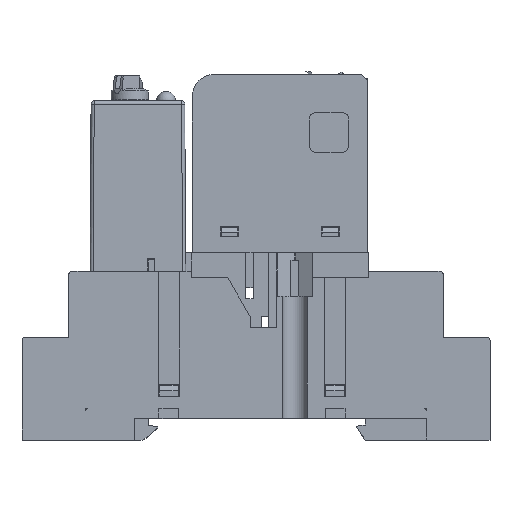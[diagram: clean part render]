
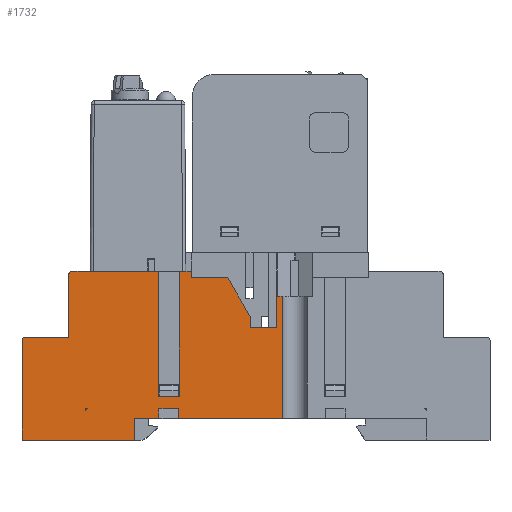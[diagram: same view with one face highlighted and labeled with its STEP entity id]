
A CAD part, top view. The second image highlights one B-rep face of the part: STEP entity #1732.
In plain terms, the highlighted planar face has unit normal (0, 0, 1).
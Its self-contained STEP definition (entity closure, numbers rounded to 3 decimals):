
#1732=ADVANCED_FACE('',(#28784,#28786),#28788,.T.);
#28784=FACE_BOUND('',#28785,.T.);
#28785=EDGE_LOOP('',(#53691,#53692,#53693,#53694,#53695,#53696,#53697,#53698,#53699,
#53700,#53701,#53702,#53703,#53704,#53705,#53706,#53707,#53708,#53709,#53710,#53711,
#53712,#53713,#53714,#53715));
#28786=FACE_BOUND('',#28787,.T.);
#28787=EDGE_LOOP('',(#53716,#53717,#53718));
#28788=PLANE('',#28789);
#28789=AXIS2_PLACEMENT_3D('',#28790,#28791,#28792);
#28790=CARTESIAN_POINT('',(-43.65,0.,15.));
#28791=DIRECTION('',(0.,0.,1.));
#28792=DIRECTION('',(1.,0.,0.));
#53691=ORIENTED_EDGE('',*,*,#70001,.T.);
#53692=ORIENTED_EDGE('',*,*,#70002,.T.);
#53693=ORIENTED_EDGE('',*,*,#70003,.T.);
#53694=ORIENTED_EDGE('',*,*,#69581,.F.);
#53695=ORIENTED_EDGE('',*,*,#70000,.F.);
#53696=ORIENTED_EDGE('',*,*,#70004,.T.);
#53697=ORIENTED_EDGE('',*,*,#70005,.T.);
#53698=ORIENTED_EDGE('',*,*,#70006,.F.);
#53699=ORIENTED_EDGE('',*,*,#70007,.F.);
#53700=ORIENTED_EDGE('',*,*,#70008,.T.);
#53701=ORIENTED_EDGE('',*,*,#70009,.T.);
#53702=ORIENTED_EDGE('',*,*,#70010,.F.);
#53703=ORIENTED_EDGE('',*,*,#70011,.T.);
#53704=ORIENTED_EDGE('',*,*,#70012,.T.);
#53705=ORIENTED_EDGE('',*,*,#70013,.T.);
#53706=ORIENTED_EDGE('',*,*,#70014,.F.);
#53707=ORIENTED_EDGE('',*,*,#70015,.T.);
#53708=ORIENTED_EDGE('',*,*,#70016,.F.);
#53709=ORIENTED_EDGE('',*,*,#70017,.T.);
#53710=ORIENTED_EDGE('',*,*,#70018,.T.);
#53711=ORIENTED_EDGE('',*,*,#70019,.T.);
#53712=ORIENTED_EDGE('',*,*,#70020,.T.);
#53713=ORIENTED_EDGE('',*,*,#70021,.T.);
#53714=ORIENTED_EDGE('',*,*,#70022,.T.);
#53715=ORIENTED_EDGE('',*,*,#69585,.F.);
#53716=ORIENTED_EDGE('',*,*,#70023,.T.);
#53717=ORIENTED_EDGE('',*,*,#70024,.T.);
#53718=ORIENTED_EDGE('',*,*,#70025,.F.);
#69581=EDGE_CURVE('',#78214,#78216,#78217,.T.);
#69585=EDGE_CURVE('',#78222,#78224,#78225,.T.);
#70000=EDGE_CURVE('',#78933,#78214,#78935,.F.);
#70001=EDGE_CURVE('',#78222,#78936,#78937,.F.);
#70002=EDGE_CURVE('',#78936,#78938,#78939,.F.);
#70003=EDGE_CURVE('',#78938,#78216,#78940,.F.);
#70004=EDGE_CURVE('',#78933,#78941,#78942,.F.);
#70005=EDGE_CURVE('',#78941,#78943,#78944,.T.);
#70006=EDGE_CURVE('',#78945,#78943,#78946,.F.);
#70007=EDGE_CURVE('',#78947,#78945,#78948,.T.);
#70008=EDGE_CURVE('',#78947,#78949,#78950,.T.);
#70009=EDGE_CURVE('',#78949,#78951,#78952,.T.);
#70010=EDGE_CURVE('',#78953,#78951,#78954,.T.);
#70011=EDGE_CURVE('',#78953,#78955,#78956,.F.);
#70012=EDGE_CURVE('',#78955,#78957,#78958,.F.);
#70013=EDGE_CURVE('',#78957,#78959,#78960,.F.);
#70014=EDGE_CURVE('',#78961,#78959,#78962,.T.);
#70015=EDGE_CURVE('',#78961,#78963,#78964,.T.);
#70016=EDGE_CURVE('',#78965,#78963,#78966,.T.);
#70017=EDGE_CURVE('',#78965,#78967,#78968,.F.);
#70018=EDGE_CURVE('',#78967,#78969,#78970,.F.);
#70019=EDGE_CURVE('',#78969,#78971,#78972,.F.);
#70020=EDGE_CURVE('',#78971,#78973,#78974,.F.);
#70021=EDGE_CURVE('',#78973,#78975,#78976,.F.);
#70022=EDGE_CURVE('',#78975,#78224,#78977,.F.);
#70023=EDGE_CURVE('',#78978,#78979,#78980,.F.);
#70024=EDGE_CURVE('',#78979,#78981,#78982,.F.);
#70025=EDGE_CURVE('',#78978,#78981,#78983,.F.);
#78214=VERTEX_POINT('',#92731);
#78216=VERTEX_POINT('',#92735);
#78217=LINE('',#92736,#92737);
#78222=VERTEX_POINT('',#92747);
#78224=VERTEX_POINT('',#92751);
#78225=LINE('',#92752,#92753);
#78933=VERTEX_POINT('',#94343);
#78935=CIRCLE('',#94347,0.5);
#78936=VERTEX_POINT('',#94351);
#78937=LINE('',#94352,#94353);
#78938=VERTEX_POINT('',#94355);
#78939=LINE('',#94356,#94357);
#78940=LINE('',#94359,#94360);
#78941=VERTEX_POINT('',#94362);
#78942=LINE('',#94363,#94364);
#78943=VERTEX_POINT('',#94366);
#78944=LINE('',#94367,#94368);
#78945=VERTEX_POINT('',#94370);
#78946=CIRCLE('',#94371,0.5);
#78947=VERTEX_POINT('',#94375);
#78948=LINE('',#94376,#94377);
#78949=VERTEX_POINT('',#94379);
#78950=LINE('',#94380,#94381);
#78951=VERTEX_POINT('',#94383);
#78952=LINE('',#94384,#94385);
#78953=VERTEX_POINT('',#94387);
#78954=LINE('',#94388,#94389);
#78955=VERTEX_POINT('',#94391);
#78956=LINE('',#94392,#94393);
#78957=VERTEX_POINT('',#94395);
#78958=LINE('',#94396,#94397);
#78959=VERTEX_POINT('',#94399);
#78960=LINE('',#94400,#94401);
#78961=VERTEX_POINT('',#94403);
#78962=LINE('',#94404,#94405);
#78963=VERTEX_POINT('',#94407);
#78964=LINE('',#94408,#94409);
#78965=VERTEX_POINT('',#94411);
#78966=LINE('',#94412,#94413);
#78967=VERTEX_POINT('',#94415);
#78968=LINE('',#94416,#94417);
#78969=VERTEX_POINT('',#94419);
#78970=LINE('',#94420,#94421);
#78971=VERTEX_POINT('',#94423);
#78972=LINE('',#94424,#94425);
#78973=VERTEX_POINT('',#94427);
#78974=LINE('',#94428,#94429);
#78975=VERTEX_POINT('',#94431);
#78976=LINE('',#94432,#94433);
#78977=LINE('',#94435,#94436);
#78978=VERTEX_POINT('',#94438);
#78979=VERTEX_POINT('',#94439);
#78980=LINE('',#94440,#94441);
#78981=VERTEX_POINT('',#94443);
#78982=LINE('',#94444,#94445);
#78983=CIRCLE('',#94447,0.3);
#92731=CARTESIAN_POINT('',(-35.65,27.,15.));
#92735=CARTESIAN_POINT('',(-21.85,27.,15.));
#92736=CARTESIAN_POINT('',(-35.65,27.,15.));
#92737=VECTOR('',#92738,1.);
#92738=DIRECTION('',(1.,0.,0.));
#92747=CARTESIAN_POINT('',(-18.45,27.,15.));
#92751=CARTESIAN_POINT('',(-16.55,27.,15.));
#92752=CARTESIAN_POINT('',(-18.45,27.,15.));
#92753=VECTOR('',#92754,1.);
#92754=DIRECTION('',(1.,0.,0.));
#94343=CARTESIAN_POINT('',(-36.15,26.5,15.));
#94347=AXIS2_PLACEMENT_3D('',#94348,#94349,#94350);
#94348=CARTESIAN_POINT('',(-35.65,26.5,15.));
#94349=DIRECTION('',(0.,-0.,1.));
#94350=DIRECTION('',(0.,1.,0.));
#94351=CARTESIAN_POINT('',(-18.45,7.,15.));
#94352=CARTESIAN_POINT('',(-18.45,7.,15.));
#94353=VECTOR('',#94354,1.);
#94354=DIRECTION('',(0.,1.,0.));
#94355=CARTESIAN_POINT('',(-21.85,7.,15.));
#94356=CARTESIAN_POINT('',(-21.85,7.,15.));
#94357=VECTOR('',#94358,1.);
#94358=DIRECTION('',(1.,0.,0.));
#94359=CARTESIAN_POINT('',(-21.85,27.,15.));
#94360=VECTOR('',#94361,1.);
#94361=DIRECTION('',(0.,-1.,0.));
#94362=CARTESIAN_POINT('',(-36.15,16.5,15.));
#94363=CARTESIAN_POINT('',(-36.15,16.5,15.));
#94364=VECTOR('',#94365,1.);
#94365=DIRECTION('',(0.,1.,0.));
#94366=CARTESIAN_POINT('',(-43.15,16.5,15.));
#94367=CARTESIAN_POINT('',(-36.15,16.5,15.));
#94368=VECTOR('',#94369,1.);
#94369=DIRECTION('',(-1.,0.,0.));
#94370=CARTESIAN_POINT('',(-43.65,16.,15.));
#94371=AXIS2_PLACEMENT_3D('',#94372,#94373,#94374);
#94372=CARTESIAN_POINT('',(-43.15,16.,15.));
#94373=DIRECTION('',(0.,-0.,1.));
#94374=DIRECTION('',(0.,1.,0.));
#94375=CARTESIAN_POINT('',(-43.65,0.,15.));
#94376=CARTESIAN_POINT('',(-43.65,0.,15.));
#94377=VECTOR('',#94378,1.);
#94378=DIRECTION('',(0.,1.,0.));
#94379=CARTESIAN_POINT('',(-25.65,0.,15.));
#94380=CARTESIAN_POINT('',(-43.65,0.,15.));
#94381=VECTOR('',#94382,1.);
#94382=DIRECTION('',(1.,0.,0.));
#94383=CARTESIAN_POINT('',(-25.65,3.5,15.));
#94384=CARTESIAN_POINT('',(-25.65,0.,15.));
#94385=VECTOR('',#94386,1.);
#94386=DIRECTION('',(0.,1.,0.));
#94387=CARTESIAN_POINT('',(-21.75,3.5,15.));
#94388=CARTESIAN_POINT('',(-21.75,3.5,15.));
#94389=VECTOR('',#94390,1.);
#94390=DIRECTION('',(-1.,0.,0.));
#94391=CARTESIAN_POINT('',(-21.75,5.,15.));
#94392=CARTESIAN_POINT('',(-21.75,5.,15.));
#94393=VECTOR('',#94394,1.);
#94394=DIRECTION('',(0.,-1.,0.));
#94395=CARTESIAN_POINT('',(-18.55,5.,15.));
#94396=CARTESIAN_POINT('',(-18.55,5.,15.));
#94397=VECTOR('',#94398,1.);
#94398=DIRECTION('',(-1.,0.,0.));
#94399=CARTESIAN_POINT('',(-18.55,3.5,15.));
#94400=CARTESIAN_POINT('',(-18.55,3.5,15.));
#94401=VECTOR('',#94402,1.);
#94402=DIRECTION('',(0.,1.,0.));
#94403=CARTESIAN_POINT('',(-2.,3.5,15.));
#94404=CARTESIAN_POINT('',(-2.,3.5,15.));
#94405=VECTOR('',#94406,1.);
#94406=DIRECTION('',(-1.,0.,0.));
#94407=CARTESIAN_POINT('',(-2.,23.,15.));
#94408=CARTESIAN_POINT('',(-2.,3.5,15.));
#94409=VECTOR('',#94410,1.);
#94410=DIRECTION('',(0.,1.,0.));
#94411=CARTESIAN_POINT('',(-2.9,23.,15.));
#94412=CARTESIAN_POINT('',(-2.9,23.,15.));
#94413=VECTOR('',#94414,1.);
#94414=DIRECTION('',(1.,0.,0.));
#94415=CARTESIAN_POINT('',(-2.9,18.,15.));
#94416=CARTESIAN_POINT('',(-2.9,18.,15.));
#94417=VECTOR('',#94418,1.);
#94418=DIRECTION('',(0.,1.,0.));
#94419=CARTESIAN_POINT('',(-7.15,18.,15.));
#94420=CARTESIAN_POINT('',(-7.15,18.,15.));
#94421=VECTOR('',#94422,1.);
#94422=DIRECTION('',(1.,0.,0.));
#94423=CARTESIAN_POINT('',(-7.15,19.8,15.));
#94424=CARTESIAN_POINT('',(-7.15,19.8,15.));
#94425=VECTOR('',#94426,1.);
#94426=DIRECTION('',(0.,-1.,0.));
#94427=CARTESIAN_POINT('',(-10.73,26.,15.));
#94428=CARTESIAN_POINT('',(-10.73,26.,15.));
#94429=VECTOR('',#94430,1.);
#94430=DIRECTION('',(0.5,-0.866,0.));
#94431=CARTESIAN_POINT('',(-16.55,26.,15.));
#94432=CARTESIAN_POINT('',(-16.55,26.,15.));
#94433=VECTOR('',#94434,1.);
#94434=DIRECTION('',(1.,0.,0.));
#94435=CARTESIAN_POINT('',(-16.55,27.,15.));
#94436=VECTOR('',#94437,1.);
#94437=DIRECTION('',(0.,-1.,0.));
#94438=CARTESIAN_POINT('',(-33.45,4.7,15.));
#94439=CARTESIAN_POINT('',(-33.45,5.,15.));
#94440=CARTESIAN_POINT('',(-33.45,5.,15.));
#94441=VECTOR('',#94442,1.);
#94442=DIRECTION('',(0.,-1.,0.));
#94443=CARTESIAN_POINT('',(-33.15,5.,15.));
#94444=CARTESIAN_POINT('',(-33.15,5.,15.));
#94445=VECTOR('',#94446,1.);
#94446=DIRECTION('',(-1.,0.,0.));
#94447=AXIS2_PLACEMENT_3D('',#94448,#94449,#94450);
#94448=CARTESIAN_POINT('',(-33.15,4.7,15.));
#94449=DIRECTION('',(0.,-0.,1.));
#94450=DIRECTION('',(0.,1.,0.));
